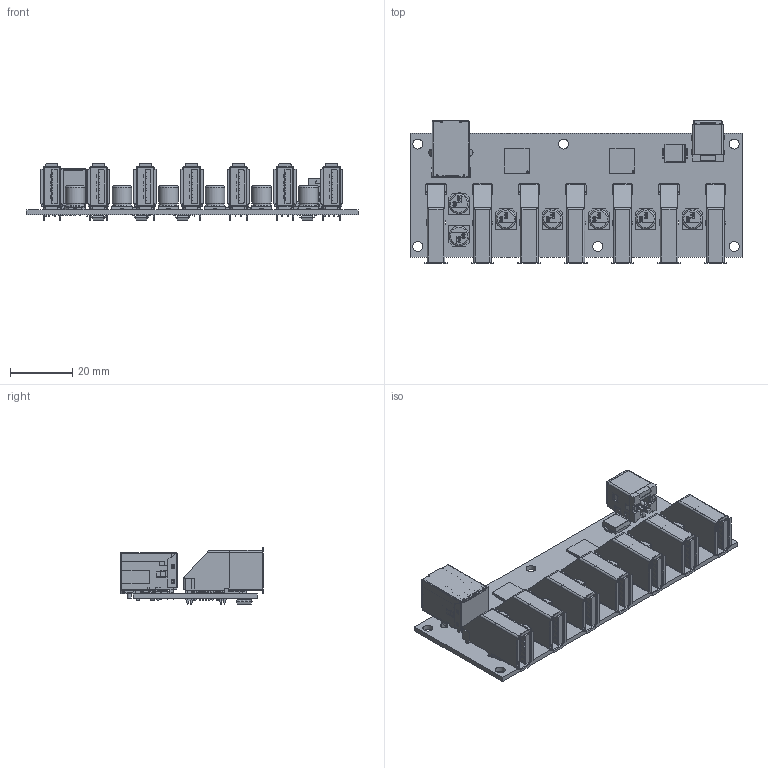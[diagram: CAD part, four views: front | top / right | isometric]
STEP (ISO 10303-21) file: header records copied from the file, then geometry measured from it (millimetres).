
FILE_DESCRIPTION(/* description */ (''),/* implementation_level */ '2;1');
FILE_NAME(/* name */ 'CG-2X3510S7-PCBA_JWV1.step',/* time_stamp */ '2023-02-28T15:31:09-05:00',/* author */ (''),/* organization */ (''),/* preprocessor_version */ 'ST-DEVELOPER v19.2',/* originating_system */ 'Autodesk Translation Framework v11.17.0.187',/* authorisation */ '');
FILE_SCHEMA (('AUTOMOTIVE_DESIGN { 1 0 10303 214 3 1 1 }'));
Products named in the file (57): (Unsaved); Board; Open CASCADE STEP translator 6.8 2.1.1; Component; Component (1); Component (2); Component (3); Component (4); Component (5); Component (6); CAP_ALUM_6_6mm; Upstream USB Type-B; 44001 (13); 44001; 44001 (1); 44001 (2); 44001 (3); 44001 (4); 44001 (5); 44001 (6); 44001 (7); 44001 (8); 44001 (9); 44001 (10); 44001 (11); 44001 (12); Downstream USB Type-A; Downstream USB Type-A (1); Downstream USB Type-A (2); Downstream USB Type-A (3); Downstream USB Type-A (4); Downstream USB Type-A (5); Downstream USB Type-A (6); usb3_a-usb3_a-e; Component (7); Component (8); Component (9); Component (10); SOIC-8; Component (11)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
Assembly tree (72 placements, depth 3):
  (Unsaved)
    Board
      Open CASCADE STEP translator 6.8 2.1.1
    Component
      CAP_ALUM_6_6mm
    Component (1)
      CAP_ALUM_6_6mm
    Component (2)
      CAP_ALUM_6_6mm
    Component (3)
      CAP_ALUM_6_6mm
    Component (4)
      CAP_ALUM_6_6mm
    Component (5)
      CAP_ALUM_6_6mm
    Component (6)
      CAP_ALUM_6_6mm
    Upstream USB Type-B
      44001 (13)
      44001
      44001 (1)
      44001 (2)
      44001 (3)
      44001 (4)
      44001 (5)
      44001 (6)
      44001 (7)
      44001 (8)
      44001 (9)
      44001 (10)
      44001 (11)
      44001 (12)
    Downstream USB Type-A
      usb3_a-usb3_a-e
    Downstream USB Type-A (1)
      usb3_a-usb3_a-e
    Downstream USB Type-A (2)
      usb3_a-usb3_a-e
    Downstream USB Type-A (3)
      usb3_a-usb3_a-e
    Downstream USB Type-A (4)
      usb3_a-usb3_a-e
    Downstream USB Type-A (5)
      usb3_a-usb3_a-e
    Downstream USB Type-A (6)
      usb3_a-usb3_a-e
    Component (7)
      SOIC-8
    Component (8)
      SOIC-8
    Component (9)
      SOIC-8
    Component (10)
      SOIC-8
    Component (11)
      QFN40P800X800X90-65N-S430
    Component (12)
      QFN40P800X800X90-65N-S430
    DC Barrel Jack
      pj-082bh
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Bounding box: 107 x 46.15 x 18.21 mm (x, y, z)
Volume: 19970.9 mm3; surface area: 33416.2 mm2
Topology: 180 solids, 180 shells, 7598 faces, 20846 edges, 13732 vertices
Faces by surface type: plane 5970, cylinder 1255, bspline 250, cone 68, torus 34, sphere 21
Full cylindrical faces by diameter (mm): 0.5 x4, 0.7 x68, 0.92 x4, 1.2 x2, 1.35 x1, 1.9 x1, 2 x1, 2.3 x2, 2.4 x1, 2.8 x2, 2.85 x2, 3.2 x6, 5.8 x7, 6.3 x14, 6.4 x7
Entity records: 106964 total; most frequent: CARTESIAN_POINT 21169, ORIENTED_EDGE 17344, DIRECTION 16479, EDGE_CURVE 8672, LINE 6979, VECTOR 6979, VERTEX_POINT 5680, AXIS2_PLACEMENT_3D 4750
